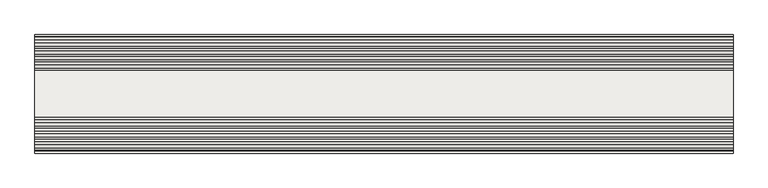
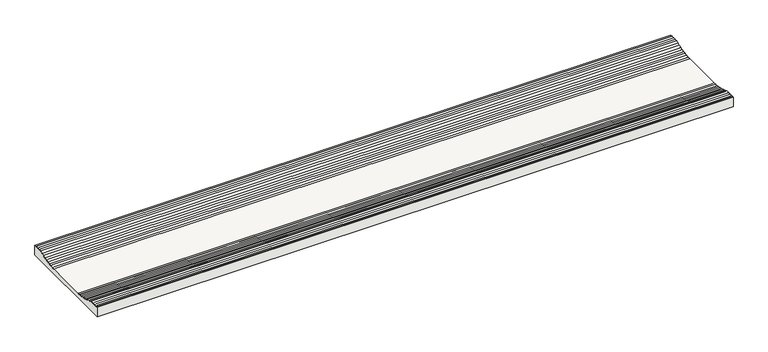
"""IFC4 building model written with IfcOpenShell, lengths in millimetres: slab geometry, ROSA GRES_204 : Pieza 204_Indugres_Indubeige_Tecno."""

from ifc_helpers import new_model, si_unit, point, frame, frame_2d, origin, place, context, project, spatial, polyline, circle_curve, trimmed, segment, composite_curve, outline, extrude, source, transform, mapped, element, save


def slab_c3a39430(model_context):
    return source(origin(), model_context, "Body", "SweptSolid", [
        extrude(outline(composite_curve([segment(polyline([(0.0, 0.0), (-250.0, 0.0), (-250.0, 22.8672484), (-246.5165615, 22.8672484)]), True, "CONTINUOUS"), segment(trimmed(circle_curve(frame_2d((-246.5165615, 24.9459193)), 2.078671), [point((-246.5165615, 22.8672484))], [point((-244.6066559, 24.1254722))], True, "CARTESIAN"), True, "CONTINUOUS"), segment(trimmed(circle_curve(frame_2d((-241.5227559, 27.2443435)), 4.3860914), [point((-244.6066559, 24.1254722))], [point((-238.5231465, 24.0443215))], True, "CARTESIAN"), True, "CONTINUOUS"), segment(trimmed(circle_curve(frame_2d((-235.5165615, 27.2619892)), 4.4037415), [point((-238.5231465, 24.0443215))], [point((-232.5161808, 24.0385354))], True, "CARTESIAN"), True, "CONTINUOUS"), segment(trimmed(circle_curve(frame_2d((-229.5227559, 27.2443435)), 4.3860914), [point((-232.5161808, 24.0385354))], [point((-226.4518445, 24.1126825))], True, "CARTESIAN"), True, "CONTINUOUS"), segment(trimmed(circle_curve(frame_2d((-222.4126485, 25.8222711)), 4.3860914), [point((-226.4518445, 24.1126825))], [point((-220.9070916, 21.702672))], True, "CARTESIAN"), True, "CONTINUOUS"), segment(trimmed(circle_curve(frame_2d((-217.0089888, 23.7132919)), 4.3860914), [point((-220.9070916, 21.702672))], [point((-215.3259087, 19.6629784))], True, "CARTESIAN"), True, "CONTINUOUS"), segment(trimmed(circle_curve(frame_2d((-211.4655295, 21.7451095)), 4.3860914), [point((-215.3259087, 19.6629784))], [point((-209.593873, 17.7784107))], True, "CARTESIAN"), True, "CONTINUOUS"), segment(trimmed(circle_curve(frame_2d((-205.8934032, 20.1330489)), 4.3860914), [point((-209.593873, 17.7784107))], [point((-203.853023, 16.2504407))], True, "CARTESIAN"), True, "CONTINUOUS"), segment(trimmed(circle_curve(frame_2d((-200.2085503, 18.690854)), 4.3860914), [point((-203.853023, 16.2504407))], [point((-197.9613895, 14.9241491))], True, "CARTESIAN"), True, "CONTINUOUS"), segment(trimmed(circle_curve(frame_2d((-194.4503067, 17.5528551)), 4.3860914), [point((-197.9613895, 14.9241491))], [point((-192.1240285, 13.8344915))], True, "CARTESIAN"), True, "CONTINUOUS"), segment(trimmed(circle_curve(frame_2d((-188.6900903, 16.563203)), 4.3860914), [point((-192.1240285, 13.8344915))], [point((-186.1425933, 12.9927609))], True, "CARTESIAN"), True, "CONTINUOUS"), segment(trimmed(circle_curve(frame_2d((-182.8453461, 15.8851576)), 4.3860914), [point((-186.1425933, 12.9927609))], [point((-180.2419212, 12.3552884))], True, "CARTESIAN"), True, "CONTINUOUS"), segment(trimmed(circle_curve(frame_2d((-177.0588098, 15.372837)), 4.3860914), [point((-180.2419212, 12.3552884))], [point((-174.3413989, 11.9299493))], True, "CARTESIAN"), True, "CONTINUOUS"), segment(polyline([(-174.3413989, 11.9299493), (-75.6586011, 11.9299493)]), True, "CONTINUOUS"), segment(trimmed(circle_curve(frame_2d((-72.9411902, 15.372837)), 4.3860914), [point((-75.6586011, 11.9299493))], [point((-69.7580788, 12.3552884))], True, "CARTESIAN"), True, "CONTINUOUS"), segment(trimmed(circle_curve(frame_2d((-67.1546539, 15.8851576)), 4.3860914), [point((-69.7580788, 12.3552884))], [point((-63.8574067, 12.9927609))], True, "CARTESIAN"), True, "CONTINUOUS"), segment(trimmed(circle_curve(frame_2d((-61.3099097, 16.563203)), 4.3860914), [point((-63.8574067, 12.9927609))], [point((-57.8759715, 13.8344915))], True, "CARTESIAN"), True, "CONTINUOUS"), segment(trimmed(circle_curve(frame_2d((-55.5496933, 17.5528551)), 4.3860914), [point((-57.8759715, 13.8344915))], [point((-52.0386105, 14.9241491))], True, "CARTESIAN"), True, "CONTINUOUS"), segment(trimmed(circle_curve(frame_2d((-49.7914497, 18.690854)), 4.3860914), [point((-52.0386105, 14.9241491))], [point((-46.146977, 16.2504407))], True, "CARTESIAN"), True, "CONTINUOUS"), segment(trimmed(circle_curve(frame_2d((-44.1065968, 20.1330489)), 4.3860914), [point((-46.146977, 16.2504407))], [point((-40.406127, 17.7784107))], True, "CARTESIAN"), True, "CONTINUOUS"), segment(trimmed(circle_curve(frame_2d((-38.5344705, 21.7451095)), 4.3860914), [point((-40.406127, 17.7784107))], [point((-34.6740913, 19.6629784))], True, "CARTESIAN"), True, "CONTINUOUS"), segment(trimmed(circle_curve(frame_2d((-32.9910112, 23.7132919)), 4.3860914), [point((-34.6740913, 19.6629784))], [point((-29.0929084, 21.702672))], True, "CARTESIAN"), True, "CONTINUOUS"), segment(trimmed(circle_curve(frame_2d((-27.5873515, 25.8222711)), 4.3860914), [point((-29.0929084, 21.702672))], [point((-23.5481555, 24.1126825))], True, "CARTESIAN"), True, "CONTINUOUS"), segment(trimmed(circle_curve(frame_2d((-20.4772441, 27.2443435)), 4.3860914), [point((-23.5481555, 24.1126825))], [point((-17.4838192, 24.0385354))], True, "CARTESIAN"), True, "CONTINUOUS"), segment(trimmed(circle_curve(frame_2d((-14.4834385, 27.2619892)), 4.4037415), [point((-17.4838192, 24.0385354))], [point((-11.4768535, 24.0443215))], True, "CARTESIAN"), True, "CONTINUOUS"), segment(trimmed(circle_curve(frame_2d((-8.4772441, 27.2443435)), 4.3860914), [point((-11.4768535, 24.0443215))], [point((-5.3933441, 24.1254722))], True, "CARTESIAN"), True, "CONTINUOUS"), segment(trimmed(circle_curve(frame_2d((-3.4834385, 24.9459193)), 2.078671), [point((-5.3933441, 24.1254722))], [point((-3.4834385, 22.8672484))], True, "CARTESIAN"), True, "CONTINUOUS"), segment(polyline([(-3.4834385, 22.8672484), (0.0, 22.8672484), (0.0, 0.0)]), True, "CONTINUOUS")], self_intersect=False)), frame((0.0, 0.0, 0.0), z_axis=(1.0, 0.0, 0.0), x_axis=(0.0, 1.0, 0.0)), (0.0, 0.0, 1.0), 1471.8252596),
    ])


if __name__ == "__main__":
    model = new_model("IFC4")
    model_context = context("Model", 3, world=origin())
    ifc_project = project(units=[si_unit("LENGTHUNIT", "METRE", prefix="MILLI")], contexts=[model_context])
    site = spatial("IfcSite", under=ifc_project)
    building = spatial("IfcBuilding", under=site)
    placement = place(None, origin())
    slab_shape = slab_c3a39430(model_context)
    element("IfcSlab", 1, ObjectType="ROSA GRES_204 : Pieza 204_Indugres_Indubeige_Tecno", at=placement, inside=building, context=model_context, shape_type="MappedRepresentation", body=[
        mapped(slab_shape, transform((0.0, 0.0, 0.0), x_axis=(1.0, 0.0, 0.0), y_axis=(0.0, 1.0, 0.0), z_axis=(0.0, 0.0, 1.0))),
    ])
    save(model, "model.ifc")
